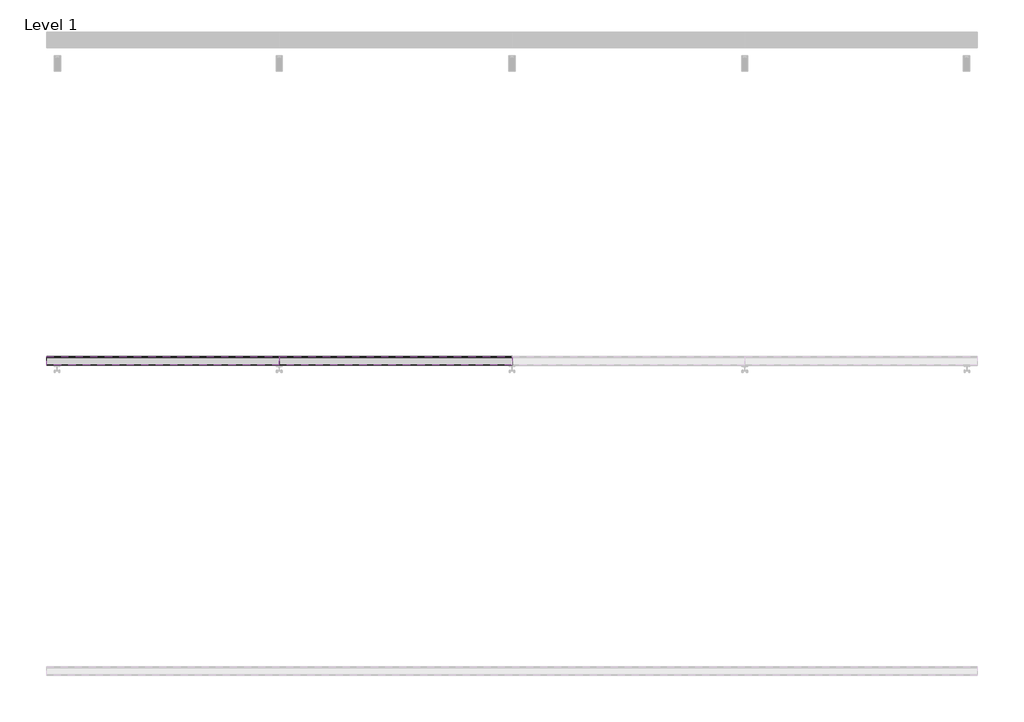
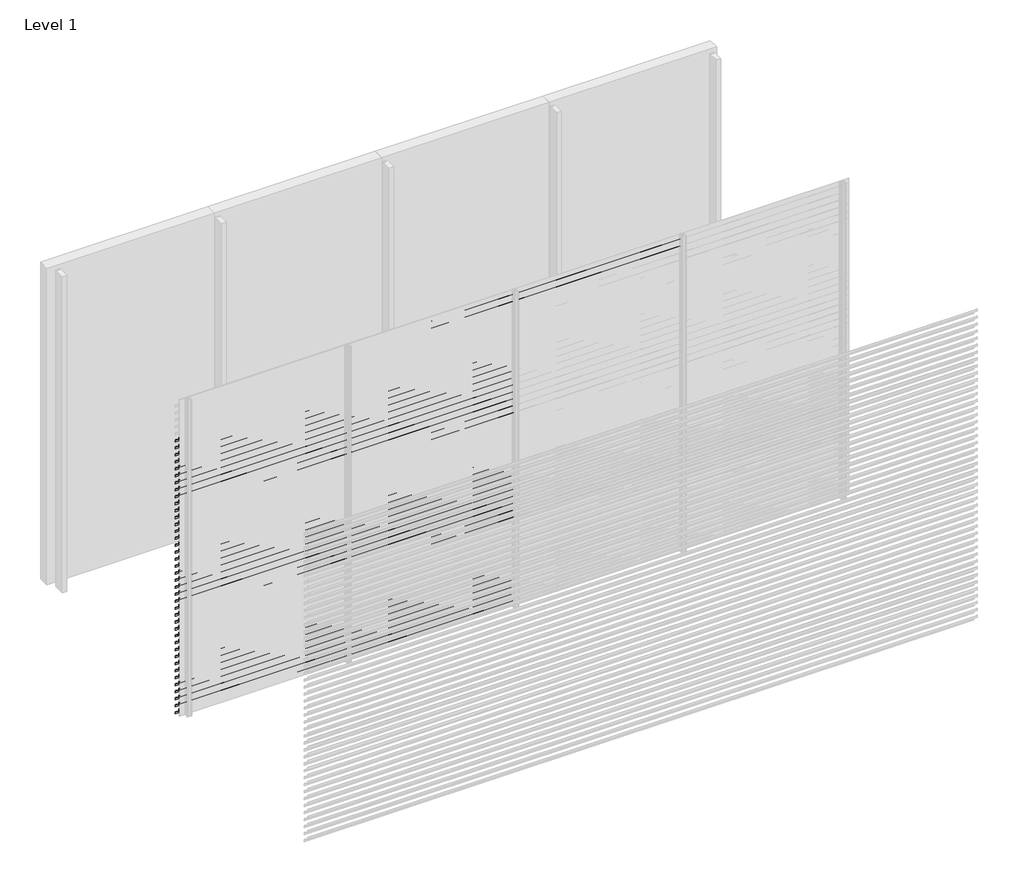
# One storey, part 6 of 25: 87 proxies.
"""IFC4 building model written with IfcOpenShell, lengths in millimetres."""

from ifc_helpers import new_model, si_unit, frame, origin, place, context, project, spatial, polyline, outline, extrude, element, save

model = new_model("IFC4")

# Units and contexts
model_context = context("Model", 3, world=origin())
ifc_project = project(units=[si_unit("LENGTHUNIT", "METRE", prefix="MILLI")], contexts=[model_context])

# Site, building, storey
site = spatial("IfcSite", under=ifc_project)
building = spatial("IfcBuilding", under=site)
storey = spatial("IfcBuildingStorey", under=building, Name="Level 1", Elevation=0.0)

# Proxies
placement = place(None, origin())
element("IfcBuildingElementProxy", 1, Name="Wall Sweeps", at=placement, inside=storey, context=model_context, shape_type="SweptSolid", body=[
    extrude(outline(polyline([(-41943.0, 2583.5), (-41943.0, 2563.5), (-41944.25, 2564.2216933), (-41944.25, 2582.7872415), (-41998.0, 2620.3158044), (-41998.0, 2640.0), (-41996.75, 2640.0), (-41996.75, 2621.0285629), (-41943.0, 2583.5)])), frame((0.0, 0.0, 0.0), z_axis=(1.0, 0.0, 0.0), x_axis=(0.0, 1.0, 0.0)), (0.0, 0.0, 1.0), 1500.0),
])
element("IfcBuildingElementProxy", 2, Name="Wall Sweeps", at=placement, inside=storey, context=model_context, shape_type="SweptSolid", body=[
    extrude(outline(polyline([(-41943.0, 2517.5), (-41943.0, 2497.5), (-41944.25, 2498.2216933), (-41944.25, 2516.7872415), (-41998.0, 2554.3158044), (-41998.0, 2574.0), (-41996.75, 2574.0), (-41996.75, 2555.0285629), (-41943.0, 2517.5)])), frame((0.0, 0.0, 0.0), z_axis=(1.0, 0.0, 0.0), x_axis=(0.0, 1.0, 0.0)), (0.0, 0.0, 1.0), 1500.0),
])
element("IfcBuildingElementProxy", 3, Name="Wall Sweeps", at=placement, inside=storey, context=model_context, shape_type="SweptSolid", body=[
    extrude(outline(polyline([(-41943.0, 2451.5), (-41943.0, 2431.5), (-41944.25, 2432.2216933), (-41944.25, 2450.7872415), (-41998.0, 2488.3158044), (-41998.0, 2508.0), (-41996.75, 2508.0), (-41996.75, 2489.0285629), (-41943.0, 2451.5)])), frame((0.0, 0.0, 0.0), z_axis=(1.0, 0.0, 0.0), x_axis=(0.0, 1.0, 0.0)), (0.0, 0.0, 1.0), 1500.0),
])
element("IfcBuildingElementProxy", 4, Name="Wall Sweeps", at=placement, inside=storey, context=model_context, shape_type="SweptSolid", body=[
    extrude(outline(polyline([(-41943.0, 2385.5), (-41943.0, 2365.5), (-41944.25, 2366.2216933), (-41944.25, 2384.7872415), (-41998.0, 2422.3158044), (-41998.0, 2442.0), (-41996.75, 2442.0), (-41996.75, 2423.0285629), (-41943.0, 2385.5)])), frame((0.0, 0.0, 0.0), z_axis=(1.0, 0.0, 0.0), x_axis=(0.0, 1.0, 0.0)), (0.0, 0.0, 1.0), 1500.0),
])
element("IfcBuildingElementProxy", 5, Name="Wall Sweeps", at=placement, inside=storey, context=model_context, shape_type="SweptSolid", body=[
    extrude(outline(polyline([(-41943.0, 2319.5), (-41943.0, 2299.5), (-41944.25, 2300.2216933), (-41944.25, 2318.7872415), (-41998.0, 2356.3158044), (-41998.0, 2376.0), (-41996.75, 2376.0), (-41996.75, 2357.0285629), (-41943.0, 2319.5)])), frame((0.0, 0.0, 0.0), z_axis=(1.0, 0.0, 0.0), x_axis=(0.0, 1.0, 0.0)), (0.0, 0.0, 1.0), 1500.0),
])
element("IfcBuildingElementProxy", 6, Name="Wall Sweeps", at=placement, inside=storey, context=model_context, shape_type="SweptSolid", body=[
    extrude(outline(polyline([(-41943.0, 2253.5), (-41943.0, 2233.5), (-41944.25, 2234.2216933), (-41944.25, 2252.7872415), (-41998.0, 2290.3158044), (-41998.0, 2310.0), (-41996.75, 2310.0), (-41996.75, 2291.0285629), (-41943.0, 2253.5)])), frame((0.0, 0.0, 0.0), z_axis=(1.0, 0.0, 0.0), x_axis=(0.0, 1.0, 0.0)), (0.0, 0.0, 1.0), 1500.0),
])
element("IfcBuildingElementProxy", 7, Name="Wall Sweeps", at=placement, inside=storey, context=model_context, shape_type="SweptSolid", body=[
    extrude(outline(polyline([(-41943.0, 2187.5), (-41943.0, 2167.5), (-41944.25, 2168.2216933), (-41944.25, 2186.7872415), (-41998.0, 2224.3158044), (-41998.0, 2244.0), (-41996.75, 2244.0), (-41996.75, 2225.0285629), (-41943.0, 2187.5)])), frame((0.0, 0.0, 0.0), z_axis=(1.0, 0.0, 0.0), x_axis=(0.0, 1.0, 0.0)), (0.0, 0.0, 1.0), 1500.0),
])
element("IfcBuildingElementProxy", 8, Name="Wall Sweeps", at=placement, inside=storey, context=model_context, shape_type="SweptSolid", body=[
    extrude(outline(polyline([(-41943.0, 2121.5), (-41943.0, 2101.5), (-41944.25, 2102.2216933), (-41944.25, 2120.7872415), (-41998.0, 2158.3158044), (-41998.0, 2178.0), (-41996.75, 2178.0), (-41996.75, 2159.0285629), (-41943.0, 2121.5)])), frame((0.0, 0.0, 0.0), z_axis=(1.0, 0.0, 0.0), x_axis=(0.0, 1.0, 0.0)), (0.0, 0.0, 1.0), 1500.0),
])
element("IfcBuildingElementProxy", 9, Name="Wall Sweeps", at=placement, inside=storey, context=model_context, shape_type="SweptSolid", body=[
    extrude(outline(polyline([(-41943.0, 2055.5), (-41943.0, 2035.5), (-41944.25, 2036.2216933), (-41944.25, 2054.7872415), (-41998.0, 2092.3158044), (-41998.0, 2112.0), (-41996.75, 2112.0), (-41996.75, 2093.0285629), (-41943.0, 2055.5)])), frame((0.0, 0.0, 0.0), z_axis=(1.0, 0.0, 0.0), x_axis=(0.0, 1.0, 0.0)), (0.0, 0.0, 1.0), 1500.0),
])
element("IfcBuildingElementProxy", 10, Name="Wall Sweeps", at=placement, inside=storey, context=model_context, shape_type="SweptSolid", body=[
    extrude(outline(polyline([(-41943.0, 1989.5), (-41943.0, 1969.5), (-41944.25, 1970.2216933), (-41944.25, 1988.7872415), (-41998.0, 2026.3158044), (-41998.0, 2046.0), (-41996.75, 2046.0), (-41996.75, 2027.0285629), (-41943.0, 1989.5)])), frame((0.0, 0.0, 0.0), z_axis=(1.0, 0.0, 0.0), x_axis=(0.0, 1.0, 0.0)), (0.0, 0.0, 1.0), 1500.0),
])
element("IfcBuildingElementProxy", 11, Name="Wall Sweeps", at=placement, inside=storey, context=model_context, shape_type="SweptSolid", body=[
    extrude(outline(polyline([(-41943.0, 1923.5), (-41943.0, 1903.5), (-41944.25, 1904.2216933), (-41944.25, 1922.7872415), (-41998.0, 1960.3158044), (-41998.0, 1980.0), (-41996.75, 1980.0), (-41996.75, 1961.0285629), (-41943.0, 1923.5)])), frame((0.0, 0.0, 0.0), z_axis=(1.0, 0.0, 0.0), x_axis=(0.0, 1.0, 0.0)), (0.0, 0.0, 1.0), 1500.0),
])
element("IfcBuildingElementProxy", 12, Name="Wall Sweeps", at=placement, inside=storey, context=model_context, shape_type="SweptSolid", body=[
    extrude(outline(polyline([(-41943.0, 1857.5), (-41943.0, 1837.5), (-41944.25, 1838.2216933), (-41944.25, 1856.7872415), (-41998.0, 1894.3158044), (-41998.0, 1914.0), (-41996.75, 1914.0), (-41996.75, 1895.0285629), (-41943.0, 1857.5)])), frame((0.0, 0.0, 0.0), z_axis=(1.0, 0.0, 0.0), x_axis=(0.0, 1.0, 0.0)), (0.0, 0.0, 1.0), 1500.0),
])
element("IfcBuildingElementProxy", 13, Name="Wall Sweeps", at=placement, inside=storey, context=model_context, shape_type="SweptSolid", body=[
    extrude(outline(polyline([(-41943.0, 1791.5), (-41943.0, 1771.5), (-41944.25, 1772.2216933), (-41944.25, 1790.7872415), (-41998.0, 1828.3158044), (-41998.0, 1848.0), (-41996.75, 1848.0), (-41996.75, 1829.0285629), (-41943.0, 1791.5)])), frame((0.0, 0.0, 0.0), z_axis=(1.0, 0.0, 0.0), x_axis=(0.0, 1.0, 0.0)), (0.0, 0.0, 1.0), 1500.0),
])
element("IfcBuildingElementProxy", 14, Name="Wall Sweeps", at=placement, inside=storey, context=model_context, shape_type="SweptSolid", body=[
    extrude(outline(polyline([(-41943.0, 1725.5), (-41943.0, 1705.5), (-41944.25, 1706.2216933), (-41944.25, 1724.7872415), (-41998.0, 1762.3158044), (-41998.0, 1782.0), (-41996.75, 1782.0), (-41996.75, 1763.0285629), (-41943.0, 1725.5)])), frame((0.0, 0.0, 0.0), z_axis=(1.0, 0.0, 0.0), x_axis=(0.0, 1.0, 0.0)), (0.0, 0.0, 1.0), 1500.0),
])
element("IfcBuildingElementProxy", 15, Name="Wall Sweeps", at=placement, inside=storey, context=model_context, shape_type="SweptSolid", body=[
    extrude(outline(polyline([(-41943.0, 1659.5), (-41943.0, 1639.5), (-41944.25, 1640.2216933), (-41944.25, 1658.7872415), (-41998.0, 1696.3158044), (-41998.0, 1716.0), (-41996.75, 1716.0), (-41996.75, 1697.0285629), (-41943.0, 1659.5)])), frame((0.0, 0.0, 0.0), z_axis=(1.0, 0.0, 0.0), x_axis=(0.0, 1.0, 0.0)), (0.0, 0.0, 1.0), 1500.0),
])
element("IfcBuildingElementProxy", 16, Name="Wall Sweeps", at=placement, inside=storey, context=model_context, shape_type="SweptSolid", body=[
    extrude(outline(polyline([(-41943.0, 1593.5), (-41943.0, 1573.5), (-41944.25, 1574.2216933), (-41944.25, 1592.7872415), (-41998.0, 1630.3158044), (-41998.0, 1650.0), (-41996.75, 1650.0), (-41996.75, 1631.0285629), (-41943.0, 1593.5)])), frame((0.0, 0.0, 0.0), z_axis=(1.0, 0.0, 0.0), x_axis=(0.0, 1.0, 0.0)), (0.0, 0.0, 1.0), 1500.0),
])
element("IfcBuildingElementProxy", 17, Name="Wall Sweeps", at=placement, inside=storey, context=model_context, shape_type="SweptSolid", body=[
    extrude(outline(polyline([(-41943.0, 1527.5), (-41943.0, 1507.5), (-41944.25, 1508.2216933), (-41944.25, 1526.7872415), (-41998.0, 1564.3158044), (-41998.0, 1584.0), (-41996.75, 1584.0), (-41996.75, 1565.0285629), (-41943.0, 1527.5)])), frame((0.0, 0.0, 0.0), z_axis=(1.0, 0.0, 0.0), x_axis=(0.0, 1.0, 0.0)), (0.0, 0.0, 1.0), 1500.0),
])
element("IfcBuildingElementProxy", 18, Name="Wall Sweeps", at=placement, inside=storey, context=model_context, shape_type="SweptSolid", body=[
    extrude(outline(polyline([(-41943.0, 1461.5), (-41943.0, 1441.5), (-41944.25, 1442.2216933), (-41944.25, 1460.7872415), (-41998.0, 1498.3158044), (-41998.0, 1518.0), (-41996.75, 1518.0), (-41996.75, 1499.0285629), (-41943.0, 1461.5)])), frame((0.0, 0.0, 0.0), z_axis=(1.0, 0.0, 0.0), x_axis=(0.0, 1.0, 0.0)), (0.0, 0.0, 1.0), 1500.0),
])
element("IfcBuildingElementProxy", 19, Name="Wall Sweeps", at=placement, inside=storey, context=model_context, shape_type="SweptSolid", body=[
    extrude(outline(polyline([(-41943.0, 1395.5), (-41943.0, 1375.5), (-41944.25, 1376.2216933), (-41944.25, 1394.7872415), (-41998.0, 1432.3158044), (-41998.0, 1452.0), (-41996.75, 1452.0), (-41996.75, 1433.0285629), (-41943.0, 1395.5)])), frame((0.0, 0.0, 0.0), z_axis=(1.0, 0.0, 0.0), x_axis=(0.0, 1.0, 0.0)), (0.0, 0.0, 1.0), 1500.0),
])
element("IfcBuildingElementProxy", 20, Name="Wall Sweeps", at=placement, inside=storey, context=model_context, shape_type="SweptSolid", body=[
    extrude(outline(polyline([(-41943.0, 1329.5), (-41943.0, 1309.5), (-41944.25, 1310.2216933), (-41944.25, 1328.7872415), (-41998.0, 1366.3158044), (-41998.0, 1386.0), (-41996.75, 1386.0), (-41996.75, 1367.0285629), (-41943.0, 1329.5)])), frame((0.0, 0.0, 0.0), z_axis=(1.0, 0.0, 0.0), x_axis=(0.0, 1.0, 0.0)), (0.0, 0.0, 1.0), 1500.0),
])
element("IfcBuildingElementProxy", 21, Name="Wall Sweeps", at=placement, inside=storey, context=model_context, shape_type="SweptSolid", body=[
    extrude(outline(polyline([(-41943.0, 1263.5), (-41943.0, 1243.5), (-41944.25, 1244.2216933), (-41944.25, 1262.7872415), (-41998.0, 1300.3158044), (-41998.0, 1320.0), (-41996.75, 1320.0), (-41996.75, 1301.0285629), (-41943.0, 1263.5)])), frame((0.0, 0.0, 0.0), z_axis=(1.0, 0.0, 0.0), x_axis=(0.0, 1.0, 0.0)), (0.0, 0.0, 1.0), 1500.0),
])
element("IfcBuildingElementProxy", 22, Name="Wall Sweeps", at=placement, inside=storey, context=model_context, shape_type="SweptSolid", body=[
    extrude(outline(polyline([(-41943.0, 1197.5), (-41943.0, 1177.5), (-41944.25, 1178.2216933), (-41944.25, 1196.7872415), (-41998.0, 1234.3158044), (-41998.0, 1254.0), (-41996.75, 1254.0), (-41996.75, 1235.0285629), (-41943.0, 1197.5)])), frame((0.0, 0.0, 0.0), z_axis=(1.0, 0.0, 0.0), x_axis=(0.0, 1.0, 0.0)), (0.0, 0.0, 1.0), 1500.0),
])
element("IfcBuildingElementProxy", 23, Name="Wall Sweeps", at=placement, inside=storey, context=model_context, shape_type="SweptSolid", body=[
    extrude(outline(polyline([(-41943.0, 1131.5), (-41943.0, 1111.5), (-41944.25, 1112.2216933), (-41944.25, 1130.7872415), (-41998.0, 1168.3158044), (-41998.0, 1188.0), (-41996.75, 1188.0), (-41996.75, 1169.0285629), (-41943.0, 1131.5)])), frame((0.0, 0.0, 0.0), z_axis=(1.0, 0.0, 0.0), x_axis=(0.0, 1.0, 0.0)), (0.0, 0.0, 1.0), 1500.0),
])
element("IfcBuildingElementProxy", 24, Name="Wall Sweeps", at=placement, inside=storey, context=model_context, shape_type="SweptSolid", body=[
    extrude(outline(polyline([(-41943.0, 1065.5), (-41943.0, 1045.5), (-41944.25, 1046.2216933), (-41944.25, 1064.7872415), (-41998.0, 1102.3158044), (-41998.0, 1122.0), (-41996.75, 1122.0), (-41996.75, 1103.0285629), (-41943.0, 1065.5)])), frame((0.0, 0.0, 0.0), z_axis=(1.0, 0.0, 0.0), x_axis=(0.0, 1.0, 0.0)), (0.0, 0.0, 1.0), 1500.0),
])
element("IfcBuildingElementProxy", 25, Name="Wall Sweeps", at=placement, inside=storey, context=model_context, shape_type="SweptSolid", body=[
    extrude(outline(polyline([(-41943.0, 999.5), (-41943.0, 979.5), (-41944.25, 980.2216933), (-41944.25, 998.7872415), (-41998.0, 1036.3158044), (-41998.0, 1056.0), (-41996.75, 1056.0), (-41996.75, 1037.0285629), (-41943.0, 999.5)])), frame((0.0, 0.0, 0.0), z_axis=(1.0, 0.0, 0.0), x_axis=(0.0, 1.0, 0.0)), (0.0, 0.0, 1.0), 1500.0),
])
element("IfcBuildingElementProxy", 26, Name="Wall Sweeps", at=placement, inside=storey, context=model_context, shape_type="SweptSolid", body=[
    extrude(outline(polyline([(-41943.0, 933.5), (-41943.0, 913.5), (-41944.25, 914.2216933), (-41944.25, 932.7872415), (-41998.0, 970.3158044), (-41998.0, 990.0), (-41996.75, 990.0), (-41996.75, 971.0285629), (-41943.0, 933.5)])), frame((0.0, 0.0, 0.0), z_axis=(1.0, 0.0, 0.0), x_axis=(0.0, 1.0, 0.0)), (0.0, 0.0, 1.0), 1500.0),
])
element("IfcBuildingElementProxy", 27, Name="Wall Sweeps", at=placement, inside=storey, context=model_context, shape_type="SweptSolid", body=[
    extrude(outline(polyline([(-41943.0, 867.5), (-41943.0, 847.5), (-41944.25, 848.2216933), (-41944.25, 866.7872415), (-41998.0, 904.3158044), (-41998.0, 924.0), (-41996.75, 924.0), (-41996.75, 905.0285629), (-41943.0, 867.5)])), frame((0.0, 0.0, 0.0), z_axis=(1.0, 0.0, 0.0), x_axis=(0.0, 1.0, 0.0)), (0.0, 0.0, 1.0), 1500.0),
])
element("IfcBuildingElementProxy", 28, Name="Wall Sweeps", at=placement, inside=storey, context=model_context, shape_type="SweptSolid", body=[
    extrude(outline(polyline([(-41943.0, 801.5), (-41943.0, 781.5), (-41944.25, 782.2216933), (-41944.25, 800.7872415), (-41998.0, 838.3158044), (-41998.0, 858.0), (-41996.75, 858.0), (-41996.75, 839.0285629), (-41943.0, 801.5)])), frame((0.0, 0.0, 0.0), z_axis=(1.0, 0.0, 0.0), x_axis=(0.0, 1.0, 0.0)), (0.0, 0.0, 1.0), 1500.0),
])
element("IfcBuildingElementProxy", 29, Name="Wall Sweeps", at=placement, inside=storey, context=model_context, shape_type="SweptSolid", body=[
    extrude(outline(polyline([(-41943.0, 735.5), (-41943.0, 715.5), (-41944.25, 716.2216933), (-41944.25, 734.7872415), (-41998.0, 772.3158044), (-41998.0, 792.0), (-41996.75, 792.0), (-41996.75, 773.0285629), (-41943.0, 735.5)])), frame((0.0, 0.0, 0.0), z_axis=(1.0, 0.0, 0.0), x_axis=(0.0, 1.0, 0.0)), (0.0, 0.0, 1.0), 1500.0),
])
element("IfcBuildingElementProxy", 30, Name="Wall Sweeps", at=placement, inside=storey, context=model_context, shape_type="SweptSolid", body=[
    extrude(outline(polyline([(-41943.0, 669.5), (-41943.0, 649.5), (-41944.25, 650.2216933), (-41944.25, 668.7872415), (-41998.0, 706.3158044), (-41998.0, 726.0), (-41996.75, 726.0), (-41996.75, 707.0285629), (-41943.0, 669.5)])), frame((0.0, 0.0, 0.0), z_axis=(1.0, 0.0, 0.0), x_axis=(0.0, 1.0, 0.0)), (0.0, 0.0, 1.0), 1500.0),
])
element("IfcBuildingElementProxy", 31, Name="Wall Sweeps", at=placement, inside=storey, context=model_context, shape_type="SweptSolid", body=[
    extrude(outline(polyline([(-41943.0, 603.5), (-41943.0, 583.5), (-41944.25, 584.2216933), (-41944.25, 602.7872415), (-41998.0, 640.3158044), (-41998.0, 660.0), (-41996.75, 660.0), (-41996.75, 641.0285629), (-41943.0, 603.5)])), frame((0.0, 0.0, 0.0), z_axis=(1.0, 0.0, 0.0), x_axis=(0.0, 1.0, 0.0)), (0.0, 0.0, 1.0), 1500.0),
])
element("IfcBuildingElementProxy", 32, Name="Wall Sweeps", at=placement, inside=storey, context=model_context, shape_type="SweptSolid", body=[
    extrude(outline(polyline([(-41943.0, 537.5), (-41943.0, 517.5), (-41944.25, 518.2216933), (-41944.25, 536.7872415), (-41998.0, 574.3158044), (-41998.0, 594.0), (-41996.75, 594.0), (-41996.75, 575.0285629), (-41943.0, 537.5)])), frame((0.0, 0.0, 0.0), z_axis=(1.0, 0.0, 0.0), x_axis=(0.0, 1.0, 0.0)), (0.0, 0.0, 1.0), 1500.0),
])
element("IfcBuildingElementProxy", 33, Name="Wall Sweeps", at=placement, inside=storey, context=model_context, shape_type="SweptSolid", body=[
    extrude(outline(polyline([(-41943.0, 471.5), (-41943.0, 451.5), (-41944.25, 452.2216933), (-41944.25, 470.7872415), (-41998.0, 508.3158044), (-41998.0, 528.0), (-41996.75, 528.0), (-41996.75, 509.0285629), (-41943.0, 471.5)])), frame((0.0, 0.0, 0.0), z_axis=(1.0, 0.0, 0.0), x_axis=(0.0, 1.0, 0.0)), (0.0, 0.0, 1.0), 1500.0),
])
element("IfcBuildingElementProxy", 34, Name="Wall Sweeps", at=placement, inside=storey, context=model_context, shape_type="SweptSolid", body=[
    extrude(outline(polyline([(-41943.0, 405.5), (-41943.0, 385.5), (-41944.25, 386.2216933), (-41944.25, 404.7872415), (-41998.0, 442.3158044), (-41998.0, 462.0), (-41996.75, 462.0), (-41996.75, 443.0285629), (-41943.0, 405.5)])), frame((0.0, 0.0, 0.0), z_axis=(1.0, 0.0, 0.0), x_axis=(0.0, 1.0, 0.0)), (0.0, 0.0, 1.0), 1500.0),
])
element("IfcBuildingElementProxy", 35, Name="Wall Sweeps", at=placement, inside=storey, context=model_context, shape_type="SweptSolid", body=[
    extrude(outline(polyline([(-41943.0, 339.5), (-41943.0, 319.5), (-41944.25, 320.2216933), (-41944.25, 338.7872415), (-41998.0, 376.3158044), (-41998.0, 396.0), (-41996.75, 396.0), (-41996.75, 377.0285629), (-41943.0, 339.5)])), frame((0.0, 0.0, 0.0), z_axis=(1.0, 0.0, 0.0), x_axis=(0.0, 1.0, 0.0)), (0.0, 0.0, 1.0), 1500.0),
])
element("IfcBuildingElementProxy", 36, Name="Wall Sweeps", at=placement, inside=storey, context=model_context, shape_type="SweptSolid", body=[
    extrude(outline(polyline([(-41943.0, 273.5), (-41943.0, 253.5), (-41944.25, 254.2216933), (-41944.25, 272.7872415), (-41998.0, 310.3158044), (-41998.0, 330.0), (-41996.75, 330.0), (-41996.75, 311.0285629), (-41943.0, 273.5)])), frame((0.0, 0.0, 0.0), z_axis=(1.0, 0.0, 0.0), x_axis=(0.0, 1.0, 0.0)), (0.0, 0.0, 1.0), 1500.0),
])
element("IfcBuildingElementProxy", 37, Name="Wall Sweeps", at=placement, inside=storey, context=model_context, shape_type="SweptSolid", body=[
    extrude(outline(polyline([(-41943.0, 207.5), (-41943.0, 187.5), (-41944.25, 188.2216933), (-41944.25, 206.7872415), (-41998.0, 244.3158044), (-41998.0, 264.0), (-41996.75, 264.0), (-41996.75, 245.0285629), (-41943.0, 207.5)])), frame((0.0, 0.0, 0.0), z_axis=(1.0, 0.0, 0.0), x_axis=(0.0, 1.0, 0.0)), (0.0, 0.0, 1.0), 1500.0),
])
element("IfcBuildingElementProxy", 38, Name="Wall Sweeps", at=placement, inside=storey, context=model_context, shape_type="SweptSolid", body=[
    extrude(outline(polyline([(-41943.0, 141.5), (-41943.0, 121.5), (-41944.25, 122.2216933), (-41944.25, 140.7872415), (-41998.0, 178.3158044), (-41998.0, 198.0), (-41996.75, 198.0), (-41996.75, 179.0285629), (-41943.0, 141.5)])), frame((0.0, 0.0, 0.0), z_axis=(1.0, 0.0, 0.0), x_axis=(0.0, 1.0, 0.0)), (0.0, 0.0, 1.0), 1500.0),
])
element("IfcBuildingElementProxy", 39, Name="Wall Sweeps", at=placement, inside=storey, context=model_context, shape_type="SweptSolid", body=[
    extrude(outline(polyline([(-41943.0, 75.5), (-41943.0, 55.5), (-41944.25, 56.2216933), (-41944.25, 74.7872415), (-41998.0, 112.3158044), (-41998.0, 132.0), (-41996.75, 132.0), (-41996.75, 113.0285629), (-41943.0, 75.5)])), frame((0.0, 0.0, 0.0), z_axis=(1.0, 0.0, 0.0), x_axis=(0.0, 1.0, 0.0)), (0.0, 0.0, 1.0), 1500.0),
])
element("IfcBuildingElementProxy", 40, Name="Wall Sweeps", at=placement, inside=storey, context=model_context, shape_type="SweptSolid", body=[
    extrude(outline(polyline([(-41943.0, 9.5), (-41943.0, -10.5), (-41944.25, -9.7783067), (-41944.25, 8.7872415), (-41998.0, 46.3158044), (-41998.0, 66.0), (-41996.75, 66.0), (-41996.75, 47.0285629), (-41943.0, 9.5)])), frame((0.0, 0.0, 0.0), z_axis=(1.0, 0.0, 0.0), x_axis=(0.0, 1.0, 0.0)), (0.0, 0.0, 1.0), 1500.0),
])
element("IfcBuildingElementProxy", 41, Name="Wall Sweeps", at=placement, inside=storey, context=model_context, shape_type="SweptSolid", body=[
    extrude(outline(polyline([(-41943.0, 2913.5), (-41943.0, 2893.5), (-41944.25, 2894.2216933), (-41944.25, 2912.7872415), (-41998.0, 2950.3158044), (-41998.0, 2970.0), (-41996.75, 2970.0), (-41996.75, 2951.0285629), (-41943.0, 2913.5)])), frame((1500.0, 0.0, 0.0), z_axis=(1.0, 0.0, 0.0), x_axis=(0.0, 1.0, 0.0)), (0.0, 0.0, 1.0), 1500.0),
])
element("IfcBuildingElementProxy", 42, Name="Wall Sweeps", at=placement, inside=storey, context=model_context, shape_type="SweptSolid", body=[
    extrude(outline(polyline([(-41943.0, 2847.5), (-41943.0, 2827.5), (-41944.25, 2828.2216933), (-41944.25, 2846.7872415), (-41998.0, 2884.3158044), (-41998.0, 2904.0), (-41996.75, 2904.0), (-41996.75, 2885.0285629), (-41943.0, 2847.5)])), frame((1500.0, 0.0, 0.0), z_axis=(1.0, 0.0, 0.0), x_axis=(0.0, 1.0, 0.0)), (0.0, 0.0, 1.0), 1500.0),
])
element("IfcBuildingElementProxy", 43, Name="Wall Sweeps", at=placement, inside=storey, context=model_context, shape_type="SweptSolid", body=[
    extrude(outline(polyline([(-41943.0, 2781.5), (-41943.0, 2761.5), (-41944.25, 2762.2216933), (-41944.25, 2780.7872415), (-41998.0, 2818.3158044), (-41998.0, 2838.0), (-41996.75, 2838.0), (-41996.75, 2819.0285629), (-41943.0, 2781.5)])), frame((1500.0, 0.0, 0.0), z_axis=(1.0, 0.0, 0.0), x_axis=(0.0, 1.0, 0.0)), (0.0, 0.0, 1.0), 1500.0),
])
element("IfcBuildingElementProxy", 44, Name="Wall Sweeps", at=placement, inside=storey, context=model_context, shape_type="SweptSolid", body=[
    extrude(outline(polyline([(-41943.0, 2715.5), (-41943.0, 2695.5), (-41944.25, 2696.2216933), (-41944.25, 2714.7872415), (-41998.0, 2752.3158044), (-41998.0, 2772.0), (-41996.75, 2772.0), (-41996.75, 2753.0285629), (-41943.0, 2715.5)])), frame((1500.0, 0.0, 0.0), z_axis=(1.0, 0.0, 0.0), x_axis=(0.0, 1.0, 0.0)), (0.0, 0.0, 1.0), 1500.0),
])
element("IfcBuildingElementProxy", 45, Name="Wall Sweeps", at=placement, inside=storey, context=model_context, shape_type="SweptSolid", body=[
    extrude(outline(polyline([(-41943.0, 2649.5), (-41943.0, 2629.5), (-41944.25, 2630.2216933), (-41944.25, 2648.7872415), (-41998.0, 2686.3158044), (-41998.0, 2706.0), (-41996.75, 2706.0), (-41996.75, 2687.0285629), (-41943.0, 2649.5)])), frame((1500.0, 0.0, 0.0), z_axis=(1.0, 0.0, 0.0), x_axis=(0.0, 1.0, 0.0)), (0.0, 0.0, 1.0), 1500.0),
])
element("IfcBuildingElementProxy", 46, Name="Wall Sweeps", at=placement, inside=storey, context=model_context, shape_type="SweptSolid", body=[
    extrude(outline(polyline([(-41943.0, 2583.5), (-41943.0, 2563.5), (-41944.25, 2564.2216933), (-41944.25, 2582.7872415), (-41998.0, 2620.3158044), (-41998.0, 2640.0), (-41996.75, 2640.0), (-41996.75, 2621.0285629), (-41943.0, 2583.5)])), frame((1500.0, 0.0, 0.0), z_axis=(1.0, 0.0, 0.0), x_axis=(0.0, 1.0, 0.0)), (0.0, 0.0, 1.0), 1500.0),
])
element("IfcBuildingElementProxy", 47, Name="Wall Sweeps", at=placement, inside=storey, context=model_context, shape_type="SweptSolid", body=[
    extrude(outline(polyline([(-41943.0, 2517.5), (-41943.0, 2497.5), (-41944.25, 2498.2216933), (-41944.25, 2516.7872415), (-41998.0, 2554.3158044), (-41998.0, 2574.0), (-41996.75, 2574.0), (-41996.75, 2555.0285629), (-41943.0, 2517.5)])), frame((1500.0, 0.0, 0.0), z_axis=(1.0, 0.0, 0.0), x_axis=(0.0, 1.0, 0.0)), (0.0, 0.0, 1.0), 1500.0),
])
element("IfcBuildingElementProxy", 48, Name="Wall Sweeps", at=placement, inside=storey, context=model_context, shape_type="SweptSolid", body=[
    extrude(outline(polyline([(-41943.0, 2451.5), (-41943.0, 2431.5), (-41944.25, 2432.2216933), (-41944.25, 2450.7872415), (-41998.0, 2488.3158044), (-41998.0, 2508.0), (-41996.75, 2508.0), (-41996.75, 2489.0285629), (-41943.0, 2451.5)])), frame((1500.0, 0.0, 0.0), z_axis=(1.0, 0.0, 0.0), x_axis=(0.0, 1.0, 0.0)), (0.0, 0.0, 1.0), 1500.0),
])
element("IfcBuildingElementProxy", 49, Name="Wall Sweeps", at=placement, inside=storey, context=model_context, shape_type="SweptSolid", body=[
    extrude(outline(polyline([(-41943.0, 2385.5), (-41943.0, 2365.5), (-41944.25, 2366.2216933), (-41944.25, 2384.7872415), (-41998.0, 2422.3158044), (-41998.0, 2442.0), (-41996.75, 2442.0), (-41996.75, 2423.0285629), (-41943.0, 2385.5)])), frame((1500.0, 0.0, 0.0), z_axis=(1.0, 0.0, 0.0), x_axis=(0.0, 1.0, 0.0)), (0.0, 0.0, 1.0), 1500.0),
])
element("IfcBuildingElementProxy", 50, Name="Wall Sweeps", at=placement, inside=storey, context=model_context, shape_type="SweptSolid", body=[
    extrude(outline(polyline([(-41943.0, 2319.5), (-41943.0, 2299.5), (-41944.25, 2300.2216933), (-41944.25, 2318.7872415), (-41998.0, 2356.3158044), (-41998.0, 2376.0), (-41996.75, 2376.0), (-41996.75, 2357.0285629), (-41943.0, 2319.5)])), frame((1500.0, 0.0, 0.0), z_axis=(1.0, 0.0, 0.0), x_axis=(0.0, 1.0, 0.0)), (0.0, 0.0, 1.0), 1500.0),
])
element("IfcBuildingElementProxy", 51, Name="Wall Sweeps", at=placement, inside=storey, context=model_context, shape_type="SweptSolid", body=[
    extrude(outline(polyline([(-41943.0, 2253.5), (-41943.0, 2233.5), (-41944.25, 2234.2216933), (-41944.25, 2252.7872415), (-41998.0, 2290.3158044), (-41998.0, 2310.0), (-41996.75, 2310.0), (-41996.75, 2291.0285629), (-41943.0, 2253.5)])), frame((1500.0, 0.0, 0.0), z_axis=(1.0, 0.0, 0.0), x_axis=(0.0, 1.0, 0.0)), (0.0, 0.0, 1.0), 1500.0),
])
element("IfcBuildingElementProxy", 52, Name="Wall Sweeps", at=placement, inside=storey, context=model_context, shape_type="SweptSolid", body=[
    extrude(outline(polyline([(-41943.0, 2187.5), (-41943.0, 2167.5), (-41944.25, 2168.2216933), (-41944.25, 2186.7872415), (-41998.0, 2224.3158044), (-41998.0, 2244.0), (-41996.75, 2244.0), (-41996.75, 2225.0285629), (-41943.0, 2187.5)])), frame((1500.0, 0.0, 0.0), z_axis=(1.0, 0.0, 0.0), x_axis=(0.0, 1.0, 0.0)), (0.0, 0.0, 1.0), 1500.0),
])
element("IfcBuildingElementProxy", 53, Name="Wall Sweeps", at=placement, inside=storey, context=model_context, shape_type="SweptSolid", body=[
    extrude(outline(polyline([(-41943.0, 2121.5), (-41943.0, 2101.5), (-41944.25, 2102.2216933), (-41944.25, 2120.7872415), (-41998.0, 2158.3158044), (-41998.0, 2178.0), (-41996.75, 2178.0), (-41996.75, 2159.0285629), (-41943.0, 2121.5)])), frame((1500.0, 0.0, 0.0), z_axis=(1.0, 0.0, 0.0), x_axis=(0.0, 1.0, 0.0)), (0.0, 0.0, 1.0), 1500.0),
])
element("IfcBuildingElementProxy", 54, Name="Wall Sweeps", at=placement, inside=storey, context=model_context, shape_type="SweptSolid", body=[
    extrude(outline(polyline([(-41943.0, 2055.5), (-41943.0, 2035.5), (-41944.25, 2036.2216933), (-41944.25, 2054.7872415), (-41998.0, 2092.3158044), (-41998.0, 2112.0), (-41996.75, 2112.0), (-41996.75, 2093.0285629), (-41943.0, 2055.5)])), frame((1500.0, 0.0, 0.0), z_axis=(1.0, 0.0, 0.0), x_axis=(0.0, 1.0, 0.0)), (0.0, 0.0, 1.0), 1500.0),
])
element("IfcBuildingElementProxy", 55, Name="Wall Sweeps", at=placement, inside=storey, context=model_context, shape_type="SweptSolid", body=[
    extrude(outline(polyline([(-41943.0, 1989.5), (-41943.0, 1969.5), (-41944.25, 1970.2216933), (-41944.25, 1988.7872415), (-41998.0, 2026.3158044), (-41998.0, 2046.0), (-41996.75, 2046.0), (-41996.75, 2027.0285629), (-41943.0, 1989.5)])), frame((1500.0, 0.0, 0.0), z_axis=(1.0, 0.0, 0.0), x_axis=(0.0, 1.0, 0.0)), (0.0, 0.0, 1.0), 1500.0),
])
element("IfcBuildingElementProxy", 56, Name="Wall Sweeps", at=placement, inside=storey, context=model_context, shape_type="SweptSolid", body=[
    extrude(outline(polyline([(-41943.0, 1923.5), (-41943.0, 1903.5), (-41944.25, 1904.2216933), (-41944.25, 1922.7872415), (-41998.0, 1960.3158044), (-41998.0, 1980.0), (-41996.75, 1980.0), (-41996.75, 1961.0285629), (-41943.0, 1923.5)])), frame((1500.0, 0.0, 0.0), z_axis=(1.0, 0.0, 0.0), x_axis=(0.0, 1.0, 0.0)), (0.0, 0.0, 1.0), 1500.0),
])
element("IfcBuildingElementProxy", 57, Name="Wall Sweeps", at=placement, inside=storey, context=model_context, shape_type="SweptSolid", body=[
    extrude(outline(polyline([(-41943.0, 1857.5), (-41943.0, 1837.5), (-41944.25, 1838.2216933), (-41944.25, 1856.7872415), (-41998.0, 1894.3158044), (-41998.0, 1914.0), (-41996.75, 1914.0), (-41996.75, 1895.0285629), (-41943.0, 1857.5)])), frame((1500.0, 0.0, 0.0), z_axis=(1.0, 0.0, 0.0), x_axis=(0.0, 1.0, 0.0)), (0.0, 0.0, 1.0), 1500.0),
])
element("IfcBuildingElementProxy", 58, Name="Wall Sweeps", at=placement, inside=storey, context=model_context, shape_type="SweptSolid", body=[
    extrude(outline(polyline([(-41943.0, 1791.5), (-41943.0, 1771.5), (-41944.25, 1772.2216933), (-41944.25, 1790.7872415), (-41998.0, 1828.3158044), (-41998.0, 1848.0), (-41996.75, 1848.0), (-41996.75, 1829.0285629), (-41943.0, 1791.5)])), frame((1500.0, 0.0, 0.0), z_axis=(1.0, 0.0, 0.0), x_axis=(0.0, 1.0, 0.0)), (0.0, 0.0, 1.0), 1500.0),
])
element("IfcBuildingElementProxy", 59, Name="Wall Sweeps", at=placement, inside=storey, context=model_context, shape_type="SweptSolid", body=[
    extrude(outline(polyline([(-41943.0, 1725.5), (-41943.0, 1705.5), (-41944.25, 1706.2216933), (-41944.25, 1724.7872415), (-41998.0, 1762.3158044), (-41998.0, 1782.0), (-41996.75, 1782.0), (-41996.75, 1763.0285629), (-41943.0, 1725.5)])), frame((1500.0, 0.0, 0.0), z_axis=(1.0, 0.0, 0.0), x_axis=(0.0, 1.0, 0.0)), (0.0, 0.0, 1.0), 1500.0),
])
element("IfcBuildingElementProxy", 60, Name="Wall Sweeps", at=placement, inside=storey, context=model_context, shape_type="SweptSolid", body=[
    extrude(outline(polyline([(-41943.0, 1659.5), (-41943.0, 1639.5), (-41944.25, 1640.2216933), (-41944.25, 1658.7872415), (-41998.0, 1696.3158044), (-41998.0, 1716.0), (-41996.75, 1716.0), (-41996.75, 1697.0285629), (-41943.0, 1659.5)])), frame((1500.0, 0.0, 0.0), z_axis=(1.0, 0.0, 0.0), x_axis=(0.0, 1.0, 0.0)), (0.0, 0.0, 1.0), 1500.0),
])
element("IfcBuildingElementProxy", 61, Name="Wall Sweeps", at=placement, inside=storey, context=model_context, shape_type="SweptSolid", body=[
    extrude(outline(polyline([(-41943.0, 1593.5), (-41943.0, 1573.5), (-41944.25, 1574.2216933), (-41944.25, 1592.7872415), (-41998.0, 1630.3158044), (-41998.0, 1650.0), (-41996.75, 1650.0), (-41996.75, 1631.0285629), (-41943.0, 1593.5)])), frame((1500.0, 0.0, 0.0), z_axis=(1.0, 0.0, 0.0), x_axis=(0.0, 1.0, 0.0)), (0.0, 0.0, 1.0), 1500.0),
])
element("IfcBuildingElementProxy", 62, Name="Wall Sweeps", at=placement, inside=storey, context=model_context, shape_type="SweptSolid", body=[
    extrude(outline(polyline([(-41943.0, 1527.5), (-41943.0, 1507.5), (-41944.25, 1508.2216933), (-41944.25, 1526.7872415), (-41998.0, 1564.3158044), (-41998.0, 1584.0), (-41996.75, 1584.0), (-41996.75, 1565.0285629), (-41943.0, 1527.5)])), frame((1500.0, 0.0, 0.0), z_axis=(1.0, 0.0, 0.0), x_axis=(0.0, 1.0, 0.0)), (0.0, 0.0, 1.0), 1500.0),
])
element("IfcBuildingElementProxy", 63, Name="Wall Sweeps", at=placement, inside=storey, context=model_context, shape_type="SweptSolid", body=[
    extrude(outline(polyline([(-41943.0, 1461.5), (-41943.0, 1441.5), (-41944.25, 1442.2216933), (-41944.25, 1460.7872415), (-41998.0, 1498.3158044), (-41998.0, 1518.0), (-41996.75, 1518.0), (-41996.75, 1499.0285629), (-41943.0, 1461.5)])), frame((1500.0, 0.0, 0.0), z_axis=(1.0, 0.0, 0.0), x_axis=(0.0, 1.0, 0.0)), (0.0, 0.0, 1.0), 1500.0),
])
element("IfcBuildingElementProxy", 64, Name="Wall Sweeps", at=placement, inside=storey, context=model_context, shape_type="SweptSolid", body=[
    extrude(outline(polyline([(-41943.0, 1395.5), (-41943.0, 1375.5), (-41944.25, 1376.2216933), (-41944.25, 1394.7872415), (-41998.0, 1432.3158044), (-41998.0, 1452.0), (-41996.75, 1452.0), (-41996.75, 1433.0285629), (-41943.0, 1395.5)])), frame((1500.0, 0.0, 0.0), z_axis=(1.0, 0.0, 0.0), x_axis=(0.0, 1.0, 0.0)), (0.0, 0.0, 1.0), 1500.0),
])
element("IfcBuildingElementProxy", 65, Name="Wall Sweeps", at=placement, inside=storey, context=model_context, shape_type="SweptSolid", body=[
    extrude(outline(polyline([(-41943.0, 1329.5), (-41943.0, 1309.5), (-41944.25, 1310.2216933), (-41944.25, 1328.7872415), (-41998.0, 1366.3158044), (-41998.0, 1386.0), (-41996.75, 1386.0), (-41996.75, 1367.0285629), (-41943.0, 1329.5)])), frame((1500.0, 0.0, 0.0), z_axis=(1.0, 0.0, 0.0), x_axis=(0.0, 1.0, 0.0)), (0.0, 0.0, 1.0), 1500.0),
])
element("IfcBuildingElementProxy", 66, Name="Wall Sweeps", at=placement, inside=storey, context=model_context, shape_type="SweptSolid", body=[
    extrude(outline(polyline([(-41943.0, 1263.5), (-41943.0, 1243.5), (-41944.25, 1244.2216933), (-41944.25, 1262.7872415), (-41998.0, 1300.3158044), (-41998.0, 1320.0), (-41996.75, 1320.0), (-41996.75, 1301.0285629), (-41943.0, 1263.5)])), frame((1500.0, 0.0, 0.0), z_axis=(1.0, 0.0, 0.0), x_axis=(0.0, 1.0, 0.0)), (0.0, 0.0, 1.0), 1500.0),
])
element("IfcBuildingElementProxy", 67, Name="Wall Sweeps", at=placement, inside=storey, context=model_context, shape_type="SweptSolid", body=[
    extrude(outline(polyline([(-41943.0, 1197.5), (-41943.0, 1177.5), (-41944.25, 1178.2216933), (-41944.25, 1196.7872415), (-41998.0, 1234.3158044), (-41998.0, 1254.0), (-41996.75, 1254.0), (-41996.75, 1235.0285629), (-41943.0, 1197.5)])), frame((1500.0, 0.0, 0.0), z_axis=(1.0, 0.0, 0.0), x_axis=(0.0, 1.0, 0.0)), (0.0, 0.0, 1.0), 1500.0),
])
element("IfcBuildingElementProxy", 68, Name="Wall Sweeps", at=placement, inside=storey, context=model_context, shape_type="SweptSolid", body=[
    extrude(outline(polyline([(-41943.0, 1131.5), (-41943.0, 1111.5), (-41944.25, 1112.2216933), (-41944.25, 1130.7872415), (-41998.0, 1168.3158044), (-41998.0, 1188.0), (-41996.75, 1188.0), (-41996.75, 1169.0285629), (-41943.0, 1131.5)])), frame((1500.0, 0.0, 0.0), z_axis=(1.0, 0.0, 0.0), x_axis=(0.0, 1.0, 0.0)), (0.0, 0.0, 1.0), 1500.0),
])
element("IfcBuildingElementProxy", 69, Name="Wall Sweeps", at=placement, inside=storey, context=model_context, shape_type="SweptSolid", body=[
    extrude(outline(polyline([(-41943.0, 1065.5), (-41943.0, 1045.5), (-41944.25, 1046.2216933), (-41944.25, 1064.7872415), (-41998.0, 1102.3158044), (-41998.0, 1122.0), (-41996.75, 1122.0), (-41996.75, 1103.0285629), (-41943.0, 1065.5)])), frame((1500.0, 0.0, 0.0), z_axis=(1.0, 0.0, 0.0), x_axis=(0.0, 1.0, 0.0)), (0.0, 0.0, 1.0), 1500.0),
])
element("IfcBuildingElementProxy", 70, Name="Wall Sweeps", at=placement, inside=storey, context=model_context, shape_type="SweptSolid", body=[
    extrude(outline(polyline([(-41943.0, 999.5), (-41943.0, 979.5), (-41944.25, 980.2216933), (-41944.25, 998.7872415), (-41998.0, 1036.3158044), (-41998.0, 1056.0), (-41996.75, 1056.0), (-41996.75, 1037.0285629), (-41943.0, 999.5)])), frame((1500.0, 0.0, 0.0), z_axis=(1.0, 0.0, 0.0), x_axis=(0.0, 1.0, 0.0)), (0.0, 0.0, 1.0), 1500.0),
])
element("IfcBuildingElementProxy", 71, Name="Wall Sweeps", at=placement, inside=storey, context=model_context, shape_type="SweptSolid", body=[
    extrude(outline(polyline([(-41943.0, 933.5), (-41943.0, 913.5), (-41944.25, 914.2216933), (-41944.25, 932.7872415), (-41998.0, 970.3158044), (-41998.0, 990.0), (-41996.75, 990.0), (-41996.75, 971.0285629), (-41943.0, 933.5)])), frame((1500.0, 0.0, 0.0), z_axis=(1.0, 0.0, 0.0), x_axis=(0.0, 1.0, 0.0)), (0.0, 0.0, 1.0), 1500.0),
])
element("IfcBuildingElementProxy", 72, Name="Wall Sweeps", at=placement, inside=storey, context=model_context, shape_type="SweptSolid", body=[
    extrude(outline(polyline([(-41943.0, 867.5), (-41943.0, 847.5), (-41944.25, 848.2216933), (-41944.25, 866.7872415), (-41998.0, 904.3158044), (-41998.0, 924.0), (-41996.75, 924.0), (-41996.75, 905.0285629), (-41943.0, 867.5)])), frame((1500.0, 0.0, 0.0), z_axis=(1.0, 0.0, 0.0), x_axis=(0.0, 1.0, 0.0)), (0.0, 0.0, 1.0), 1500.0),
])
element("IfcBuildingElementProxy", 73, Name="Wall Sweeps", at=placement, inside=storey, context=model_context, shape_type="SweptSolid", body=[
    extrude(outline(polyline([(-41943.0, 801.5), (-41943.0, 781.5), (-41944.25, 782.2216933), (-41944.25, 800.7872415), (-41998.0, 838.3158044), (-41998.0, 858.0), (-41996.75, 858.0), (-41996.75, 839.0285629), (-41943.0, 801.5)])), frame((1500.0, 0.0, 0.0), z_axis=(1.0, 0.0, 0.0), x_axis=(0.0, 1.0, 0.0)), (0.0, 0.0, 1.0), 1500.0),
])
element("IfcBuildingElementProxy", 74, Name="Wall Sweeps", at=placement, inside=storey, context=model_context, shape_type="SweptSolid", body=[
    extrude(outline(polyline([(-41943.0, 735.5), (-41943.0, 715.5), (-41944.25, 716.2216933), (-41944.25, 734.7872415), (-41998.0, 772.3158044), (-41998.0, 792.0), (-41996.75, 792.0), (-41996.75, 773.0285629), (-41943.0, 735.5)])), frame((1500.0, 0.0, 0.0), z_axis=(1.0, 0.0, 0.0), x_axis=(0.0, 1.0, 0.0)), (0.0, 0.0, 1.0), 1500.0),
])
element("IfcBuildingElementProxy", 75, Name="Wall Sweeps", at=placement, inside=storey, context=model_context, shape_type="SweptSolid", body=[
    extrude(outline(polyline([(-41943.0, 669.5), (-41943.0, 649.5), (-41944.25, 650.2216933), (-41944.25, 668.7872415), (-41998.0, 706.3158044), (-41998.0, 726.0), (-41996.75, 726.0), (-41996.75, 707.0285629), (-41943.0, 669.5)])), frame((1500.0, 0.0, 0.0), z_axis=(1.0, 0.0, 0.0), x_axis=(0.0, 1.0, 0.0)), (0.0, 0.0, 1.0), 1500.0),
])
element("IfcBuildingElementProxy", 76, Name="Wall Sweeps", at=placement, inside=storey, context=model_context, shape_type="SweptSolid", body=[
    extrude(outline(polyline([(-41943.0, 603.5), (-41943.0, 583.5), (-41944.25, 584.2216933), (-41944.25, 602.7872415), (-41998.0, 640.3158044), (-41998.0, 660.0), (-41996.75, 660.0), (-41996.75, 641.0285629), (-41943.0, 603.5)])), frame((1500.0, 0.0, 0.0), z_axis=(1.0, 0.0, 0.0), x_axis=(0.0, 1.0, 0.0)), (0.0, 0.0, 1.0), 1500.0),
])
element("IfcBuildingElementProxy", 77, Name="Wall Sweeps", at=placement, inside=storey, context=model_context, shape_type="SweptSolid", body=[
    extrude(outline(polyline([(-41943.0, 537.5), (-41943.0, 517.5), (-41944.25, 518.2216933), (-41944.25, 536.7872415), (-41998.0, 574.3158044), (-41998.0, 594.0), (-41996.75, 594.0), (-41996.75, 575.0285629), (-41943.0, 537.5)])), frame((1500.0, 0.0, 0.0), z_axis=(1.0, 0.0, 0.0), x_axis=(0.0, 1.0, 0.0)), (0.0, 0.0, 1.0), 1500.0),
])
element("IfcBuildingElementProxy", 78, Name="Wall Sweeps", at=placement, inside=storey, context=model_context, shape_type="SweptSolid", body=[
    extrude(outline(polyline([(-41943.0, 471.5), (-41943.0, 451.5), (-41944.25, 452.2216933), (-41944.25, 470.7872415), (-41998.0, 508.3158044), (-41998.0, 528.0), (-41996.75, 528.0), (-41996.75, 509.0285629), (-41943.0, 471.5)])), frame((1500.0, 0.0, 0.0), z_axis=(1.0, 0.0, 0.0), x_axis=(0.0, 1.0, 0.0)), (0.0, 0.0, 1.0), 1500.0),
])
element("IfcBuildingElementProxy", 79, Name="Wall Sweeps", at=placement, inside=storey, context=model_context, shape_type="SweptSolid", body=[
    extrude(outline(polyline([(-41943.0, 405.5), (-41943.0, 385.5), (-41944.25, 386.2216933), (-41944.25, 404.7872415), (-41998.0, 442.3158044), (-41998.0, 462.0), (-41996.75, 462.0), (-41996.75, 443.0285629), (-41943.0, 405.5)])), frame((1500.0, 0.0, 0.0), z_axis=(1.0, 0.0, 0.0), x_axis=(0.0, 1.0, 0.0)), (0.0, 0.0, 1.0), 1500.0),
])
element("IfcBuildingElementProxy", 80, Name="Wall Sweeps", at=placement, inside=storey, context=model_context, shape_type="SweptSolid", body=[
    extrude(outline(polyline([(-41943.0, 339.5), (-41943.0, 319.5), (-41944.25, 320.2216933), (-41944.25, 338.7872415), (-41998.0, 376.3158044), (-41998.0, 396.0), (-41996.75, 396.0), (-41996.75, 377.0285629), (-41943.0, 339.5)])), frame((1500.0, 0.0, 0.0), z_axis=(1.0, 0.0, 0.0), x_axis=(0.0, 1.0, 0.0)), (0.0, 0.0, 1.0), 1500.0),
])
element("IfcBuildingElementProxy", 81, Name="Wall Sweeps", at=placement, inside=storey, context=model_context, shape_type="SweptSolid", body=[
    extrude(outline(polyline([(-41943.0, 273.5), (-41943.0, 253.5), (-41944.25, 254.2216933), (-41944.25, 272.7872415), (-41998.0, 310.3158044), (-41998.0, 330.0), (-41996.75, 330.0), (-41996.75, 311.0285629), (-41943.0, 273.5)])), frame((1500.0, 0.0, 0.0), z_axis=(1.0, 0.0, 0.0), x_axis=(0.0, 1.0, 0.0)), (0.0, 0.0, 1.0), 1500.0),
])
element("IfcBuildingElementProxy", 82, Name="Wall Sweeps", at=placement, inside=storey, context=model_context, shape_type="SweptSolid", body=[
    extrude(outline(polyline([(-41943.0, 207.5), (-41943.0, 187.5), (-41944.25, 188.2216933), (-41944.25, 206.7872415), (-41998.0, 244.3158044), (-41998.0, 264.0), (-41996.75, 264.0), (-41996.75, 245.0285629), (-41943.0, 207.5)])), frame((1500.0, 0.0, 0.0), z_axis=(1.0, 0.0, 0.0), x_axis=(0.0, 1.0, 0.0)), (0.0, 0.0, 1.0), 1500.0),
])
element("IfcBuildingElementProxy", 83, Name="Wall Sweeps", at=placement, inside=storey, context=model_context, shape_type="SweptSolid", body=[
    extrude(outline(polyline([(-41943.0, 141.5), (-41943.0, 121.5), (-41944.25, 122.2216933), (-41944.25, 140.7872415), (-41998.0, 178.3158044), (-41998.0, 198.0), (-41996.75, 198.0), (-41996.75, 179.0285629), (-41943.0, 141.5)])), frame((1500.0, 0.0, 0.0), z_axis=(1.0, 0.0, 0.0), x_axis=(0.0, 1.0, 0.0)), (0.0, 0.0, 1.0), 1500.0),
])
element("IfcBuildingElementProxy", 84, Name="Wall Sweeps", at=placement, inside=storey, context=model_context, shape_type="SweptSolid", body=[
    extrude(outline(polyline([(-41943.0, 75.5), (-41943.0, 55.5), (-41944.25, 56.2216933), (-41944.25, 74.7872415), (-41998.0, 112.3158044), (-41998.0, 132.0), (-41996.75, 132.0), (-41996.75, 113.0285629), (-41943.0, 75.5)])), frame((1500.0, 0.0, 0.0), z_axis=(1.0, 0.0, 0.0), x_axis=(0.0, 1.0, 0.0)), (0.0, 0.0, 1.0), 1500.0),
])
element("IfcBuildingElementProxy", 85, Name="Wall Sweeps", at=placement, inside=storey, context=model_context, shape_type="SweptSolid", body=[
    extrude(outline(polyline([(-41943.0, 9.5), (-41943.0, -10.5), (-41944.25, -9.7783067), (-41944.25, 8.7872415), (-41998.0, 46.3158044), (-41998.0, 66.0), (-41996.75, 66.0), (-41996.75, 47.0285629), (-41943.0, 9.5)])), frame((1500.0, 0.0, 0.0), z_axis=(1.0, 0.0, 0.0), x_axis=(0.0, 1.0, 0.0)), (0.0, 0.0, 1.0), 1500.0),
])
element("IfcBuildingElementProxy", 86, Name="Wall Sweeps", at=placement, inside=storey, context=model_context, shape_type="SweptSolid", body=[
    extrude(outline(polyline([(-41943.0, 2913.5), (-41943.0, 2893.5), (-41944.25, 2894.2216933), (-41944.25, 2912.7872415), (-41998.0, 2950.3158044), (-41998.0, 2970.0), (-41996.75, 2970.0), (-41996.75, 2951.0285629), (-41943.0, 2913.5)])), frame((3000.0, 0.0, 0.0), z_axis=(1.0, 0.0, 0.0), x_axis=(0.0, 1.0, 0.0)), (0.0, 0.0, 1.0), 1500.0),
])
element("IfcBuildingElementProxy", 87, Name="Wall Sweeps", at=placement, inside=storey, context=model_context, shape_type="SweptSolid", body=[
    extrude(outline(polyline([(-41943.0, 2847.5), (-41943.0, 2827.5), (-41944.25, 2828.2216933), (-41944.25, 2846.7872415), (-41998.0, 2884.3158044), (-41998.0, 2904.0), (-41996.75, 2904.0), (-41996.75, 2885.0285629), (-41943.0, 2847.5)])), frame((3000.0, 0.0, 0.0), z_axis=(1.0, 0.0, 0.0), x_axis=(0.0, 1.0, 0.0)), (0.0, 0.0, 1.0), 1500.0),
])

save(model, "model.ifc")
